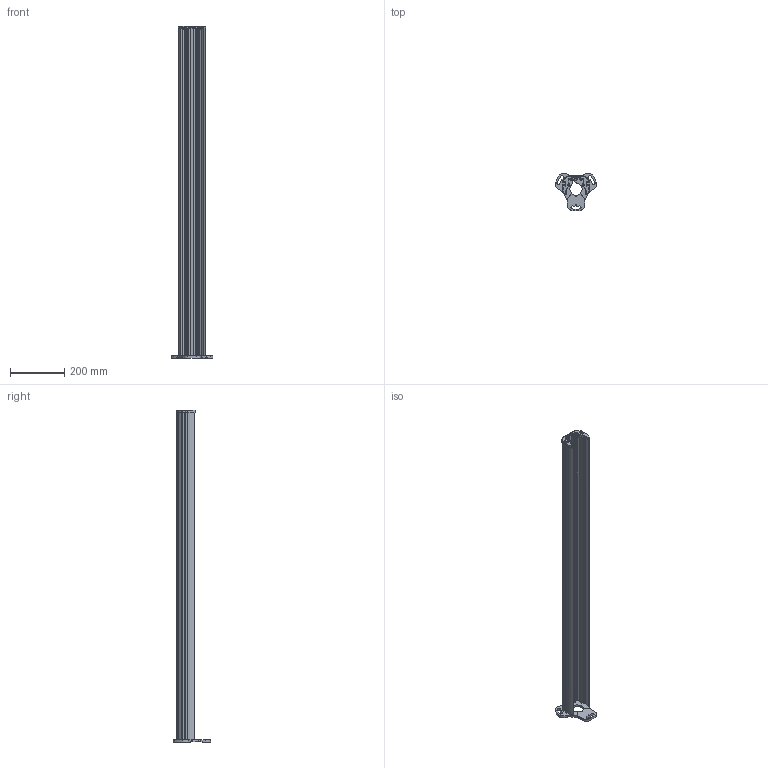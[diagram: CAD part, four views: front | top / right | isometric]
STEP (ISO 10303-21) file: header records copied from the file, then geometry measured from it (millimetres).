
FILE_DESCRIPTION(/* description */ (''),/* implementation_level */ '2;1');
FILE_NAME(/* name */ 'D:\_Vault\Workspace\Projektordner\3-Sensoren\03-OES\06-PSENoptII Zubehör II\Kundendaten\Neutralformate\H306221_A_protective_column_120_PSEN_opII_Kundendaten.stp',/* time_stamp */ '2019-07-02T12:45:20+02:00',/* author */ ('dambuehl'),/* organization */ (''),/* preprocessor_version */ 'ST-DEVELOPER v17.2',/* originating_system */ 'Autodesk Inventor 2019',/* authorisation */ '');
FILE_SCHEMA (('CONFIG_CONTROL_DESIGN'));
Length unit declared in the file: millimetre
Products named in the file (1): protective_column_PSEN_opII_Kundendaten
Bounding box: 153.46 x 139.19 x 1224.3 mm (x, y, z)
Volume: 1633686.9 mm3; surface area: 721729 mm2
Topology: 1 solids, 1 shells, 846 faces, 2177 edges, 1326 vertices
Faces by surface type: cylinder 299, plane 237, bspline 164, torus 70, cone 58, sphere 18
Full cylindrical faces by diameter (mm): 4 x2, 7 x1
Entity records: 30264 total; most frequent: CARTESIAN_POINT 10138, ORIENTED_EDGE 4310, DIRECTION 4160, EDGE_CURVE 2155, AXIS2_PLACEMENT_3D 1620, VERTEX_POINT 1326, LINE 920, VECTOR 920
